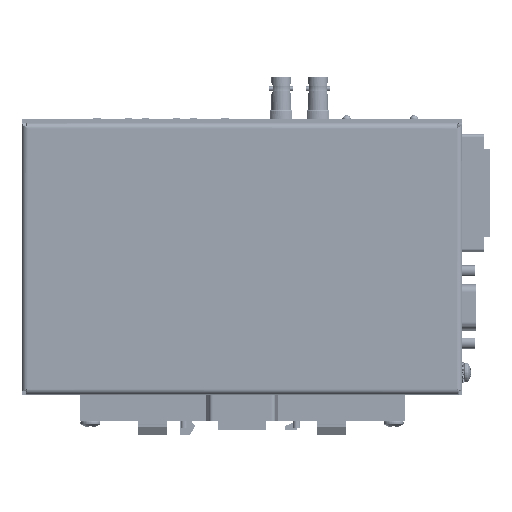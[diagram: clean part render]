
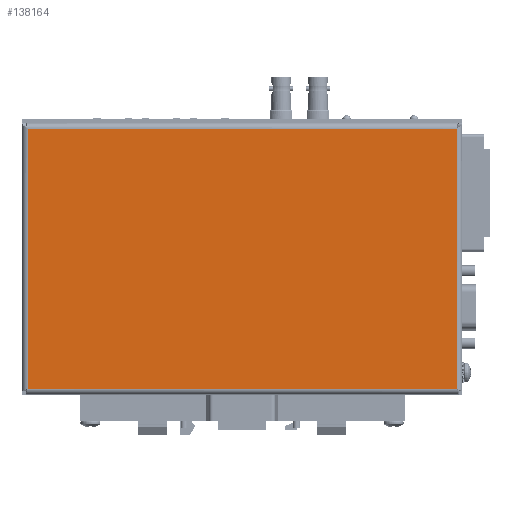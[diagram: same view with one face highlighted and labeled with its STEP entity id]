
A CAD part, front view. The second image highlights one B-rep face of the part: STEP entity #138164.
In plain terms, the highlighted planar face has unit normal (0, -1, 0).
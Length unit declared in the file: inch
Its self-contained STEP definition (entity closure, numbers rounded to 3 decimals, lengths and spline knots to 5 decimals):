
#4294 = DIRECTION ( 'NONE',  ( 1., 0., 0. ) ) ;
#7360 = CARTESIAN_POINT ( 'NONE',  ( -30., -0.0478, -3.6254 ) ) ;
#16015 = VECTOR ( 'NONE', #102081, 39.37008 ) ;
#22040 = LINE ( 'NONE', #124857, #171453 ) ;
#34869 = FACE_OUTER_BOUND ( 'NONE', #131328, .T. ) ;
#52746 = AXIS2_PLACEMENT_3D ( 'NONE', #68515, #116735, #163968 ) ;
#68515 = CARTESIAN_POINT ( 'NONE',  ( 0., -0.0478, 0. ) ) ;
#73337 = CARTESIAN_POINT ( 'NONE',  ( 5.9232, -0.0478, -0.0768 ) ) ;
#79593 = EDGE_CURVE ( 'NONE', #165408, #120176, #150130, .T. ) ;
#89299 = ORIENTED_EDGE ( 'NONE', *, *, #79593, .T. ) ;
#91202 = VERTEX_POINT ( 'NONE', #166055 ) ;
#102081 = DIRECTION ( 'NONE',  ( 0., 0., 1. ) ) ;
#106003 = VECTOR ( 'NONE', #4294, 39.37008 ) ;
#113623 = ORIENTED_EDGE ( 'NONE', *, *, #163644, .T. ) ;
#115720 = PLANE ( 'NONE',  #52746 ) ;
#116735 = DIRECTION ( 'NONE',  ( 0., -1., 0. ) ) ;
#117129 = CARTESIAN_POINT ( 'NONE',  ( 5.9232, -0.0478, -3.6254 ) ) ;
#118891 = CARTESIAN_POINT ( 'NONE',  ( 5.9232, -0.0478, -33.7022 ) ) ;
#120176 = VERTEX_POINT ( 'NONE', #117129 ) ;
#121364 = ORIENTED_EDGE ( 'NONE', *, *, #162936, .T. ) ;
#124857 = CARTESIAN_POINT ( 'NONE',  ( 5.9232, -0.0478, -0.0768 ) ) ;
#131328 = EDGE_LOOP ( 'NONE', ( #167006, #113623, #121364, #89299 ) ) ;
#135480 = CARTESIAN_POINT ( 'NONE',  ( 0.0768, -0.0478, 30. ) ) ;
#138164 = ADVANCED_FACE ( 'NONE', ( #34869 ), #115720, .T. ) ;
#140361 = EDGE_CURVE ( 'NONE', #120176, #171984, #149337, .T. ) ;
#149337 = LINE ( 'NONE', #118891, #16015 ) ;
#150130 = LINE ( 'NONE', #7360, #106003 ) ;
#153269 = DIRECTION ( 'NONE',  ( 0., 0., -1. ) ) ;
#158296 = VECTOR ( 'NONE', #153269, 39.37008 ) ;
#162056 = CARTESIAN_POINT ( 'NONE',  ( 0.0768, -0.0478, -3.6254 ) ) ;
#162936 = EDGE_CURVE ( 'NONE', #91202, #165408, #198438, .T. ) ;
#163644 = EDGE_CURVE ( 'NONE', #171984, #91202, #22040, .T. ) ;
#163968 = DIRECTION ( 'NONE',  ( 0., 0., -1. ) ) ;
#165408 = VERTEX_POINT ( 'NONE', #162056 ) ;
#166055 = CARTESIAN_POINT ( 'NONE',  ( 0.0768, -0.0478, -0.0768 ) ) ;
#167006 = ORIENTED_EDGE ( 'NONE', *, *, #140361, .T. ) ;
#171453 = VECTOR ( 'NONE', #173109, 39.37008 ) ;
#171984 = VERTEX_POINT ( 'NONE', #73337 ) ;
#173109 = DIRECTION ( 'NONE',  ( -1., 0., 0. ) ) ;
#198438 = LINE ( 'NONE', #135480, #158296 ) ;
